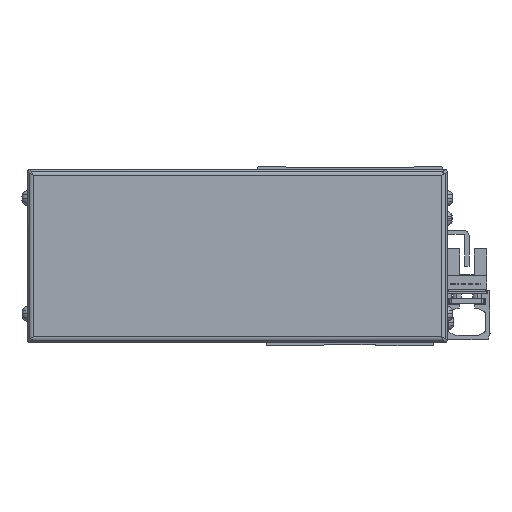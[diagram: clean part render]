
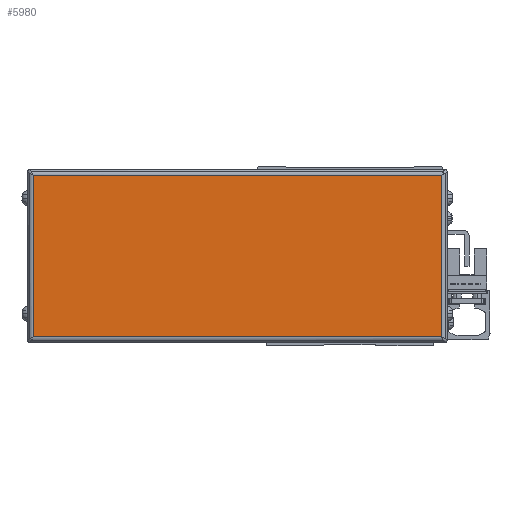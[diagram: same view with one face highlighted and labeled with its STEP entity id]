
A CAD part, front view. The second image highlights one B-rep face of the part: STEP entity #5980.
In plain terms, the highlighted planar face has unit normal (0, -1, 0).
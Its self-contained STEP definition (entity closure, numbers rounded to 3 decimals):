
#5980=ADVANCED_FACE('',(#12414),#12415,.F.);
#12414=FACE_OUTER_BOUND('',#20501,.T.);
#12415=PLANE('',#20502);
#20501=EDGE_LOOP('',(#37100,#37101,#37102,#37103));
#20502=AXIS2_PLACEMENT_3D('',#37104,#37105,#37106);
#37100=ORIENTED_EDGE('',*,*,#49524,.T.);
#37101=ORIENTED_EDGE('',*,*,#48862,.T.);
#37102=ORIENTED_EDGE('',*,*,#47194,.T.);
#37103=ORIENTED_EDGE('',*,*,#49737,.T.);
#37104=CARTESIAN_POINT('',(261.,106.,-4.));
#37105=DIRECTION('',(0.,1.0,0.));
#37106=DIRECTION('',(0.,0.,1.0));
#47194=EDGE_CURVE('',#57900,#53050,#57901,.T.);
#48862=EDGE_CURVE('',#55314,#57900,#60242,.T.);
#49524=EDGE_CURVE('',#61079,#55314,#61080,.T.);
#49737=EDGE_CURVE('',#53050,#61079,#61336,.T.);
#53050=VERTEX_POINT('',#65685);
#55314=VERTEX_POINT('',#69017);
#57900=VERTEX_POINT('',#72586);
#57901=LINE('',#72587,#72588);
#60242=LINE('',#75932,#75933);
#61079=VERTEX_POINT('',#77168);
#61080=LINE('',#77169,#77170);
#61336=LINE('',#77529,#77530);
#65685=CARTESIAN_POINT('',(331.7,106.,-32.));
#69017=CARTESIAN_POINT('',(190.3,106.,24.));
#72586=CARTESIAN_POINT('',(190.3,106.,-32.));
#72587=CARTESIAN_POINT('',(261.,106.,-32.));
#72588=VECTOR('',#84383,10.0);
#75932=CARTESIAN_POINT('',(190.3,106.,-4.));
#75933=VECTOR('',#86364,10.0);
#77168=CARTESIAN_POINT('',(331.7,106.,24.));
#77169=CARTESIAN_POINT('',(261.,106.,24.));
#77170=VECTOR('',#87047,10.0);
#77529=CARTESIAN_POINT('',(331.7,106.,-4.));
#77530=VECTOR('',#87247,10.0);
#84383=DIRECTION('',(1.0,0.,0.));
#86364=DIRECTION('',(0.,0.,-1.0));
#87047=DIRECTION('',(-1.0,0.,0.));
#87247=DIRECTION('',(0.,0.,1.0));
